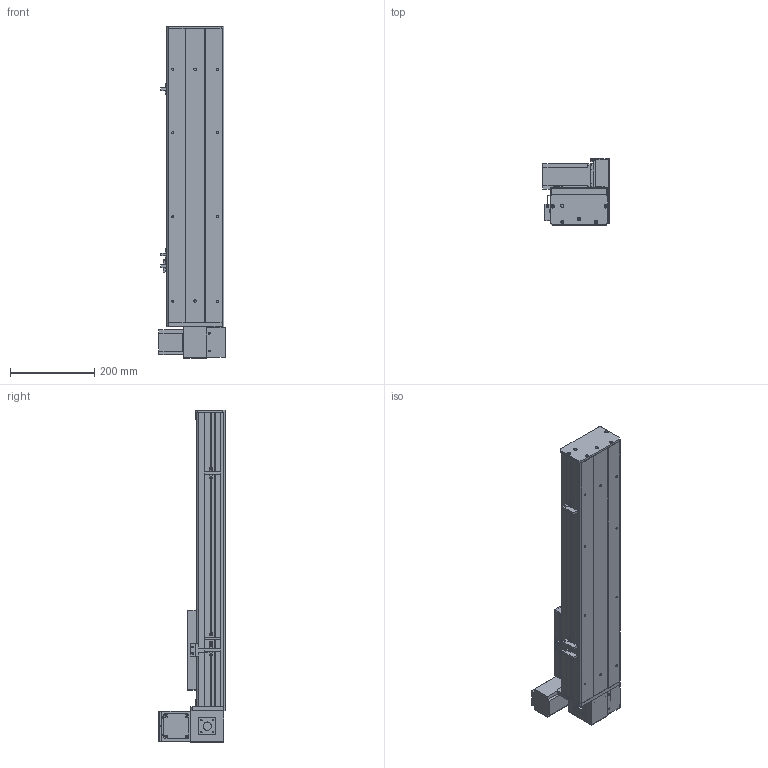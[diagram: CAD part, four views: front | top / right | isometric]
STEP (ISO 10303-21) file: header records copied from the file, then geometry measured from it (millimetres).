
FILE_DESCRIPTION (( 'STEP AP203' ), '1' );
FILE_NAME ('Y135CB-D90-S400-UL-P400W.STEP', '2020-02-18T07:05:17', ( '微软用户' ), ( '微软中国' ), 'SwSTEP 2.0', 'SolidWorks 2017', '' );
FILE_SCHEMA (( 'CONFIG_CONTROL_DESIGN' ));
Length unit declared in the file: millimetre
Products named in the file (18): C-雄赽釱--; 0B-萇儂楊擘啣; Y10B-耜蚾蟀諉啣----; san松下电机400不带刹车----; 00B-俋欶BM--; 5CB --掛极耜裔啣-; Y10B--々湍喘謫眊--666; C-詩湍揤踡え-陔; Y135CB-耜裔; Y135CB-D90-S400-UL-P400W; 135CB--詩湍-CE; 135CB---遴掛极.-; Y100-135俋离換覜ん--; 35CB---喘謫眊楊擘啣; Y135C-陔俋离換覜結え-; 0B-埴倛裔啣; 5C--俋欶; 0B-源倛裔啣
Assembly tree (21 placements, depth 2):
  Y135CB-D90-S400-UL-P400W
    Y135CB-耜裔
    135CB---遴掛极.-
    35CB---喘謫眊楊擘啣
    0B-埴倛裔啣
    0B-源倛裔啣
    0B-萇儂楊擘啣
    san松下电机400不带刹车----
    5CB --掛极耜裔啣-  x2
    C-詩湍揤踡え-陔  x2
    135CB--詩湍-CE
    Y100-135俋离換覜ん--  x3
    Y135C-陔俋离換覜結え-
    5C--俋欶
    C-雄赽釱--
    Y10B-耜蚾蟀諉啣----
    00B-俋欶BM--
    Y10B--々湍喘謫眊--666
Bounding box: 157 x 158.7 x 788 mm (x, y, z)
Volume: 2828305.9 mm3; surface area: 1090706.6 mm2
Topology: 21 solids, 21 shells, 933 faces, 2473 edges, 1638 vertices
Faces by surface type: cylinder 461, plane 456, cone 16
Entity records: 28743 total; most frequent: DIRECTION 4773, CARTESIAN_POINT 4680, ORIENTED_EDGE 4422, EDGE_CURVE 2211, AXIS2_PLACEMENT_3D 1735, VERTEX_POINT 1466, LINE 1303, VECTOR 1303
